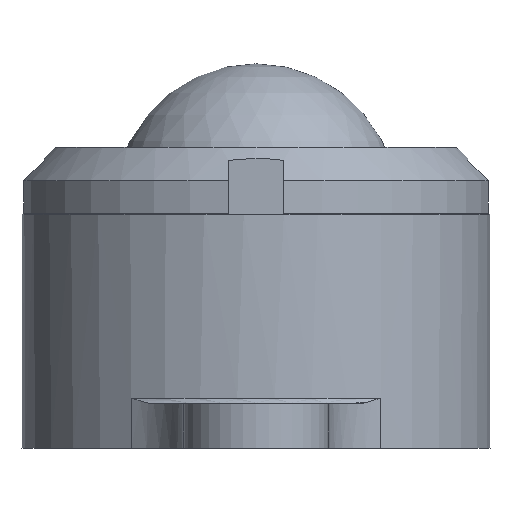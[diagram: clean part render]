
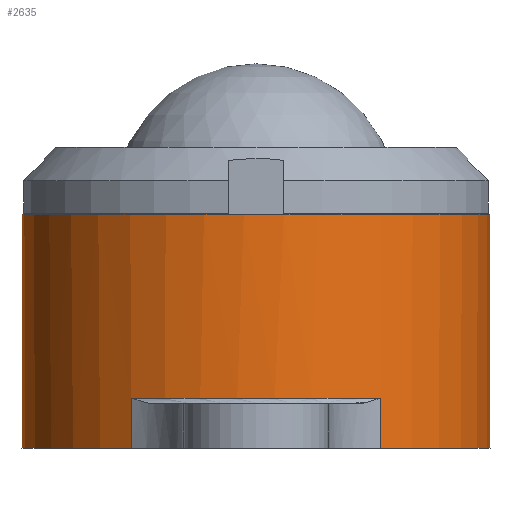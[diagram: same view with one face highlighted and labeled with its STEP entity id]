
A CAD part, left-side view. The second image highlights one B-rep face of the part: STEP entity #2635.
In plain terms, the highlighted cylindrical face has radius 21 mm (diameter 42 mm), a full revolution.
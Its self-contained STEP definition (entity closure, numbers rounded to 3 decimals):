
#48=FACE_BOUND('',#892,.T.);
#85=CYLINDRICAL_SURFACE('',#2860,21.);
#275=LINE('',#4641,#487);
#276=LINE('',#4644,#488);
#277=LINE('',#4646,#489);
#278=LINE('',#4649,#490);
#487=VECTOR('',#3460,4.5);
#488=VECTOR('',#3463,4.5);
#489=VECTOR('',#3464,4.5);
#490=VECTOR('',#3467,4.5);
#732=FACE_OUTER_BOUND('',#891,.T.);
#891=EDGE_LOOP('',(#2152));
#892=EDGE_LOOP('',(#2153,#2154,#2155,#2156,#2157,#2158,#2159,#2160));
#971=CIRCLE('',#2734,21.);
#1018=CIRCLE('',#2847,21.);
#1022=CIRCLE('',#2851,21.);
#1031=CIRCLE('',#2861,21.);
#1032=CIRCLE('',#2862,21.);
#1109=VERTEX_POINT('',#3954);
#1244=VERTEX_POINT('',#4585);
#1245=VERTEX_POINT('',#4586);
#1250=VERTEX_POINT('',#4596);
#1251=VERTEX_POINT('',#4598);
#1269=VERTEX_POINT('',#4640);
#1270=VERTEX_POINT('',#4642);
#1271=VERTEX_POINT('',#4645);
#1272=VERTEX_POINT('',#4647);
#1377=EDGE_CURVE('',#1109,#1109,#971,.T.);
#1565=EDGE_CURVE('',#1244,#1245,#1018,.T.);
#1571=EDGE_CURVE('',#1251,#1250,#1022,.T.);
#1594=EDGE_CURVE('',#1250,#1269,#275,.T.);
#1595=EDGE_CURVE('',#1270,#1269,#1031,.T.);
#1596=EDGE_CURVE('',#1270,#1244,#276,.T.);
#1597=EDGE_CURVE('',#1245,#1271,#277,.T.);
#1598=EDGE_CURVE('',#1272,#1271,#1032,.T.);
#1599=EDGE_CURVE('',#1272,#1251,#278,.T.);
#2152=ORIENTED_EDGE('',*,*,#1377,.F.);
#2153=ORIENTED_EDGE('',*,*,#1571,.T.);
#2154=ORIENTED_EDGE('',*,*,#1594,.T.);
#2155=ORIENTED_EDGE('',*,*,#1595,.F.);
#2156=ORIENTED_EDGE('',*,*,#1596,.T.);
#2157=ORIENTED_EDGE('',*,*,#1565,.T.);
#2158=ORIENTED_EDGE('',*,*,#1597,.T.);
#2159=ORIENTED_EDGE('',*,*,#1598,.F.);
#2160=ORIENTED_EDGE('',*,*,#1599,.T.);
#2635=ADVANCED_FACE('',(#732,#48),#85,.T.);
#2734=AXIS2_PLACEMENT_3D('',#3955,#3072,#3073);
#2847=AXIS2_PLACEMENT_3D('',#4587,#3416,#3417);
#2851=AXIS2_PLACEMENT_3D('',#4599,#3426,#3427);
#2860=AXIS2_PLACEMENT_3D('',#4639,#3458,#3459);
#2861=AXIS2_PLACEMENT_3D('',#4643,#3461,#3462);
#2862=AXIS2_PLACEMENT_3D('',#4648,#3465,#3466);
#3072=DIRECTION('center_axis',(0.,0.,1.));
#3073=DIRECTION('ref_axis',(0.,-1.,0.));
#3416=DIRECTION('center_axis',(0.,0.,1.));
#3417=DIRECTION('ref_axis',(0.,-1.,0.));
#3426=DIRECTION('center_axis',(0.,0.,1.));
#3427=DIRECTION('ref_axis',(0.,-1.,0.));
#3458=DIRECTION('center_axis',(0.,0.,1.));
#3459=DIRECTION('ref_axis',(0.,-1.,0.));
#3460=DIRECTION('',(0.,0.,1.));
#3461=DIRECTION('center_axis',(0.,0.,
-1.));
#3462=DIRECTION('ref_axis',(1.,0.,0.));
#3463=DIRECTION('',(0.,0.,-1.));
#3464=DIRECTION('',(0.,0.,1.));
#3465=DIRECTION('center_axis',(0.,0.,
-1.));
#3466=DIRECTION('ref_axis',(-1.,0.,0.));
#3467=DIRECTION('',(0.,0.,-1.));
#3954=CARTESIAN_POINT('',(-20.851,-2.5,21.));
#3955=CARTESIAN_POINT('Origin',(0.,0.,21.));
#4585=CARTESIAN_POINT('',(17.778,11.177,0.));
#4586=CARTESIAN_POINT('',(-17.778,11.177,0.));
#4587=CARTESIAN_POINT('Origin',(0.,0.,0.));
#4596=CARTESIAN_POINT('',(17.778,-11.177,0.));
#4598=CARTESIAN_POINT('',(-17.778,-11.177,0.));
#4599=CARTESIAN_POINT('Origin',(0.,0.,0.));
#4639=CARTESIAN_POINT('Origin',(0.,0.,10.5));
#4640=CARTESIAN_POINT('',(17.778,-11.177,4.5));
#4641=CARTESIAN_POINT('',(17.778,-11.177,10.5));
#4642=CARTESIAN_POINT('',(17.778,11.177,4.5));
#4643=CARTESIAN_POINT('Origin',(0.,0.,4.5));
#4644=CARTESIAN_POINT('',(17.778,11.177,10.5));
#4645=CARTESIAN_POINT('',(-17.778,11.177,4.5));
#4646=CARTESIAN_POINT('',(-17.778,11.177,10.5));
#4647=CARTESIAN_POINT('',(-17.778,-11.177,4.5));
#4648=CARTESIAN_POINT('Origin',(0.,0.,4.5));
#4649=CARTESIAN_POINT('',(-17.778,-11.177,10.5));
